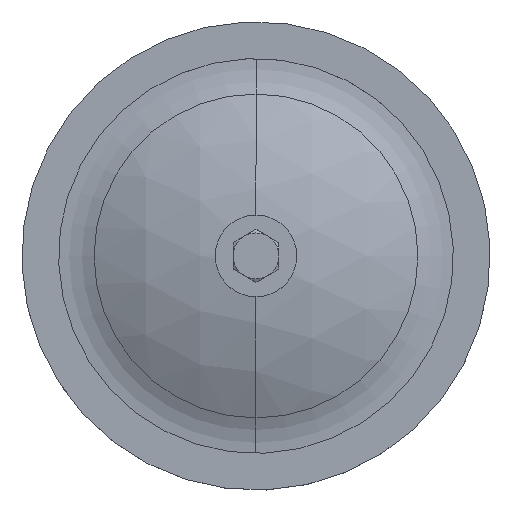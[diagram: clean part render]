
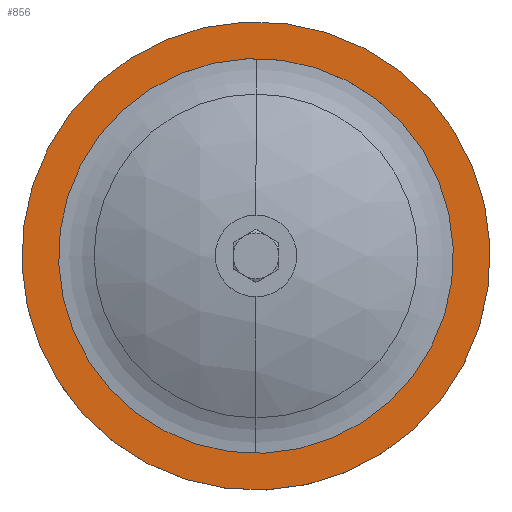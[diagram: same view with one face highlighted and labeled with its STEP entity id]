
A CAD part, top view. The second image highlights one B-rep face of the part: STEP entity #856.
In plain terms, the highlighted planar face has unit normal (0, 0, 1).
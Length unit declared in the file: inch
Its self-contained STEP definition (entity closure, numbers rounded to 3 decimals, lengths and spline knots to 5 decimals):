
#7 = ORIENTED_EDGE ( 'NONE', *, *, #1479, .F. ) ;
#19 = ORIENTED_EDGE ( 'NONE', *, *, #1297, .F. ) ;
#25 = CIRCLE ( 'NONE', #839, 2.4175 ) ;
#57 = EDGE_LOOP ( 'NONE', ( #7, #19 ) ) ;
#87 = EDGE_LOOP ( 'NONE', ( #1766, #1786 ) ) ;
#114 = CIRCLE ( 'NONE', #888, 2.8675 ) ;
#150 = VERTEX_POINT ( 'NONE', #1311 ) ;
#285 = CARTESIAN_POINT ( 'NONE',  ( 0.55989, 1.64707, 0.36479 ) ) ;
#366 = DIRECTION ( 'NONE',  ( -0.924, -0.383, 0. ) ) ;
#367 = DIRECTION ( 'NONE',  ( 0., 0., 1. ) ) ;
#368 = CARTESIAN_POINT ( 'NONE',  ( -1.67323, 0.72105, 0.36479 ) ) ;
#386 = CARTESIAN_POINT ( 'NONE',  ( -3.90634, -0.20497, 0.36479 ) ) ;
#387 = DIRECTION ( 'NONE',  ( 0., 0., 1. ) ) ;
#389 = CARTESIAN_POINT ( 'NONE',  ( -1.67323, 0.72105, 0.36479 ) ) ;
#677 = DIRECTION ( 'NONE',  ( -0.924, -0.383, 0. ) ) ;
#680 = DIRECTION ( 'NONE',  ( 0., 0., 1. ) ) ;
#681 = CARTESIAN_POINT ( 'NONE',  ( -1.67323, 0.72105, 0.36479 ) ) ;
#744 = AXIS2_PLACEMENT_3D ( 'NONE', #368, #367, #366 ) ;
#754 = AXIS2_PLACEMENT_3D ( 'NONE', #389, #387, #1393 ) ;
#795 = DIRECTION ( 'NONE',  ( -0.924, -0.383, 0. ) ) ;
#839 = AXIS2_PLACEMENT_3D ( 'NONE', #681, #680, #677 ) ;
#856 = ADVANCED_FACE ( 'NONE', ( #1518, #1469 ), #1056, .T. ) ;
#888 = AXIS2_PLACEMENT_3D ( 'NONE', #1735, #1734, #795 ) ;
#909 = DIRECTION ( 'NONE',  ( 0., 0., 1. ) ) ;
#944 = DIRECTION ( 'NONE',  ( -0.924, -0.383, 0. ) ) ;
#946 = VERTEX_POINT ( 'NONE', #1680 ) ;
#1056 = PLANE ( 'NONE',  #1111 ) ;
#1111 = AXIS2_PLACEMENT_3D ( 'NONE', #1121, #909, #944 ) ;
#1121 = CARTESIAN_POINT ( 'NONE',  ( -3.90634, -0.20497, 0.36479 ) ) ;
#1217 = CIRCLE ( 'NONE', #744, 2.4175 ) ;
#1251 = EDGE_CURVE ( 'NONE', #150, #946, #114, .T. ) ;
#1297 = EDGE_CURVE ( 'NONE', #1665, #1484, #25, .T. ) ;
#1304 = CIRCLE ( 'NONE', #754, 2.8675 ) ;
#1311 = CARTESIAN_POINT ( 'NONE',  ( -4.32202, -0.37734, 0.36479 ) ) ;
#1393 = DIRECTION ( 'NONE',  ( -0.924, -0.383, 0. ) ) ;
#1464 = EDGE_CURVE ( 'NONE', #946, #150, #1304, .T. ) ;
#1469 = FACE_BOUND ( 'NONE', #57, .T. ) ;
#1479 = EDGE_CURVE ( 'NONE', #1484, #1665, #1217, .T. ) ;
#1484 = VERTEX_POINT ( 'NONE', #386 ) ;
#1518 = FACE_OUTER_BOUND ( 'NONE', #87, .T. ) ;
#1665 = VERTEX_POINT ( 'NONE', #285 ) ;
#1680 = CARTESIAN_POINT ( 'NONE',  ( 0.97556, 1.81944, 0.36479 ) ) ;
#1734 = DIRECTION ( 'NONE',  ( 0., 0., 1. ) ) ;
#1735 = CARTESIAN_POINT ( 'NONE',  ( -1.67323, 0.72105, 0.36479 ) ) ;
#1766 = ORIENTED_EDGE ( 'NONE', *, *, #1251, .T. ) ;
#1786 = ORIENTED_EDGE ( 'NONE', *, *, #1464, .T. ) ;
